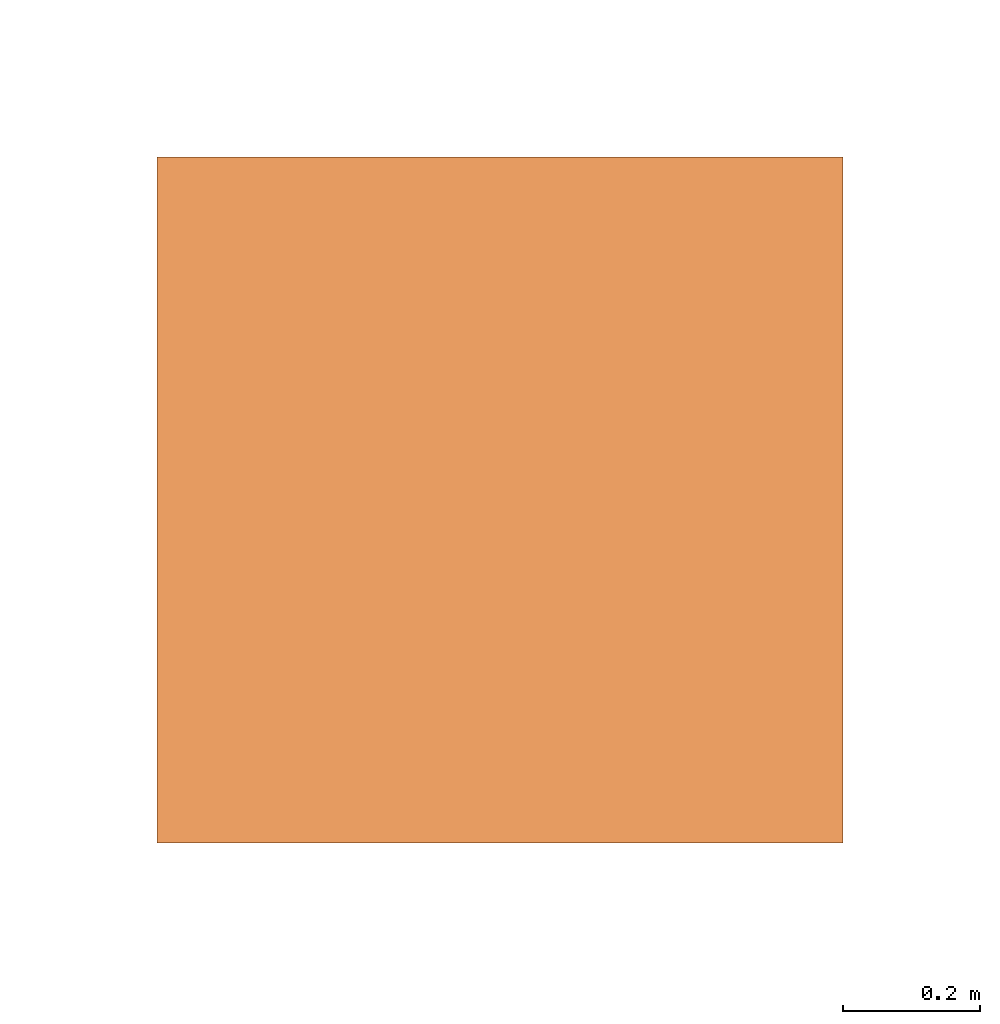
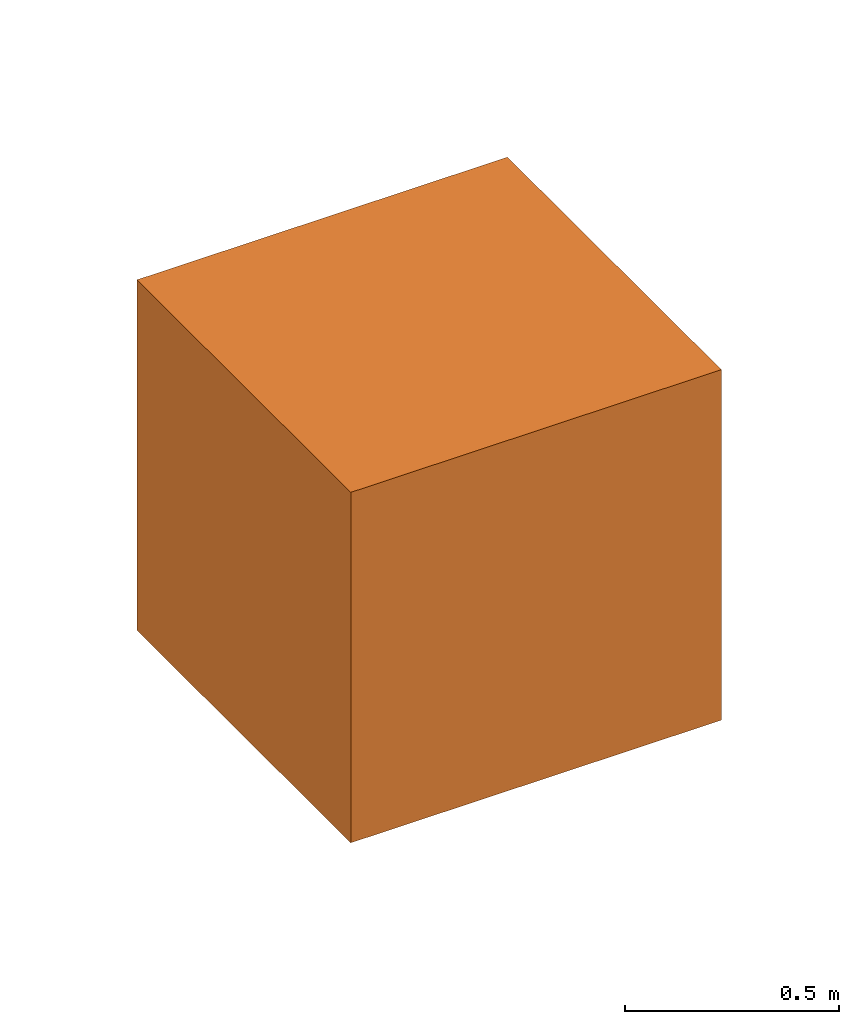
# Not in any storey, part 2 of 2: 1 proxy.
"""IFC4 model written with IfcOpenShell, lengths in millimetres."""

from ifc_helpers import new_model, si_unit, frame, origin_with_axes, place, context, subcontext, project, spatial, triangles, material, type_object, element, save


model = new_model("IFC4")

# Units and contexts
model_context = context("Model", 3, world=origin_with_axes())
body_context = subcontext(model_context, "Body", "Model", "MODEL_VIEW")
ifc_project = project(units=[si_unit("LENGTHUNIT", "METRE", prefix="MILLI"), si_unit("AREAUNIT", "SQUARE_METRE"), si_unit("VOLUMEUNIT", "CUBIC_METRE")], contexts=[model_context])

# Sites
site_1_placement = place(None, origin_with_axes())
site_1 = spatial("IfcSite", under=ifc_project, at=site_1_placement, Name="environment - site", CompositionType="COMPLEX")
site_2_placement = place(site_1_placement, frame((5800.000000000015, 5800.000000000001, -1300.0000000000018), z_axis=(0.0, 0.0, 1.0), x_axis=(1.0, 0.0, 0.0)))
site_2 = spatial("IfcSite", under=site_1, at=site_2_placement, Name="house - site", CompositionType="PARTIAL")

# Proxy
ifc_material = material(Name="virtual_white")
building_element_proxy_type = type_object("IfcBuildingElementProxyType", Name="origin", PredefinedType="USERDEFINED")
proxy_placement = place(site_2_placement, frame((-5800.000000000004, -5799.999999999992, 1300.0), z_axis=(0.0, 0.0, 1.0), x_axis=(1.0, 0.0, 0.0)))
element("IfcBuildingElementProxy", 1, at=proxy_placement, inside=site_2, type_object=building_element_proxy_type, material=ifc_material, Name="origin", ObjectType="origin", context=body_context, shape_type="Tessellation", body=[
    triangles([(1000.0000000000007, 1000.0000000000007, 0.0), (1000.0000000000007, 0.0, 1000.0), (1000.0000000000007, 0.0, 0.0), (1000.0000000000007, 1000.0000000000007, 1000.0), (0.0, 1000.0000000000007, 1000.0), (1000.0000000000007, 1000.0000000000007, 0.0), (0.0, 1000.0000000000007, 0.0), (1000.0000000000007, 1000.0000000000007, 1000.0), (1000.0000000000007, 1000.0000000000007, 0.0), (0.0, 0.0, 0.0), (0.0, 1000.0000000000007, 0.0), (1000.0000000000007, 0.0, 0.0), (0.0, 1000.0000000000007, 1000.0), (0.0, 0.0, 0.0), (0.0, 0.0, 1000.0), (0.0, 1000.0000000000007, 0.0), (1000.0000000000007, 0.0, 1000.0), (0.0, 1000.0000000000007, 1000.0), (0.0, 0.0, 1000.0), (1000.0000000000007, 1000.0000000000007, 1000.0), (1000.0000000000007, 0.0, 1000.0), (0.0, 0.0, 0.0), (1000.0000000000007, 0.0, 0.0), (0.0, 0.0, 1000.0)], [[1, 2, 3], [2, 1, 4], [5, 6, 7], [6, 5, 8], [9, 10, 11], [10, 9, 12], [13, 14, 15], [14, 13, 16], [17, 18, 19], [18, 17, 20], [21, 22, 23], [22, 21, 24]]),
])

save(model, "model.ifc")
